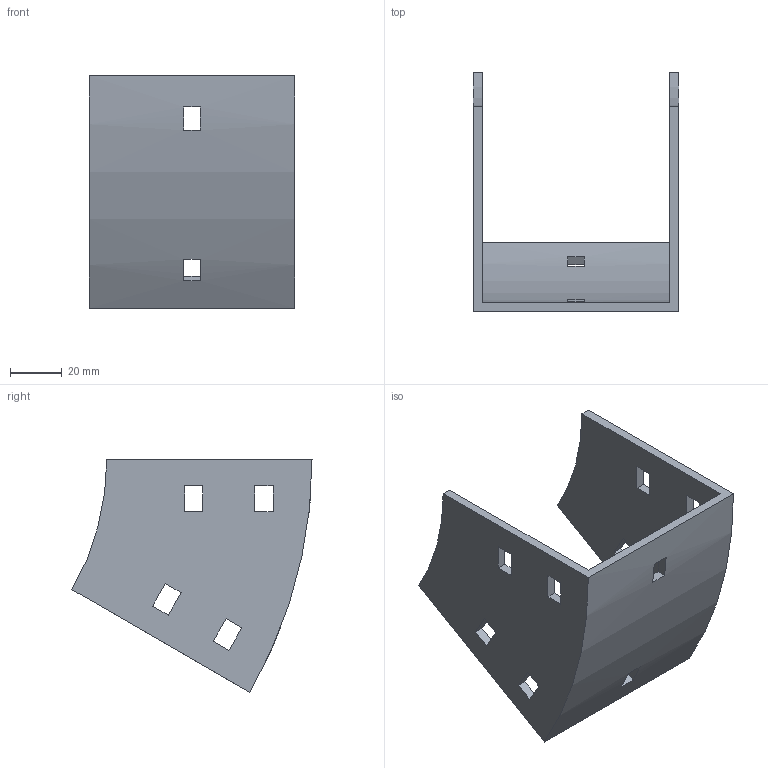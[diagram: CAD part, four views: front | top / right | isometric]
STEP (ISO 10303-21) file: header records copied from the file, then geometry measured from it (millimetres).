
FILE_DESCRIPTION (( 'STEP AP214' ), '1' );
FILE_NAME ('32B1C075.step', '2025-02-21T09:44:33', ( '' ), ( '' ), 'SwSTEP 2.0', 'SolidWorks 2023', '' );
FILE_SCHEMA (( 'AUTOMOTIVE_DESIGN' ));
Length unit declared in the file: millimetre
Products named in the file (1): 32B1C075
Bounding box: 79 x 92.4 x 89.5 mm (x, y, z)
Volume: 61408.5 mm3; surface area: 38243.5 mm2
Topology: 1 solids, 1 shells, 50 faces, 144 edges, 96 vertices
Faces by surface type: plane 46, cylinder 4
Entity records: 1687 total; most frequent: CARTESIAN_POINT 291, ORIENTED_EDGE 288, DIRECTION 262, EDGE_CURVE 144, LINE 128, VECTOR 128, VERTEX_POINT 96, EDGE_LOOP 70
